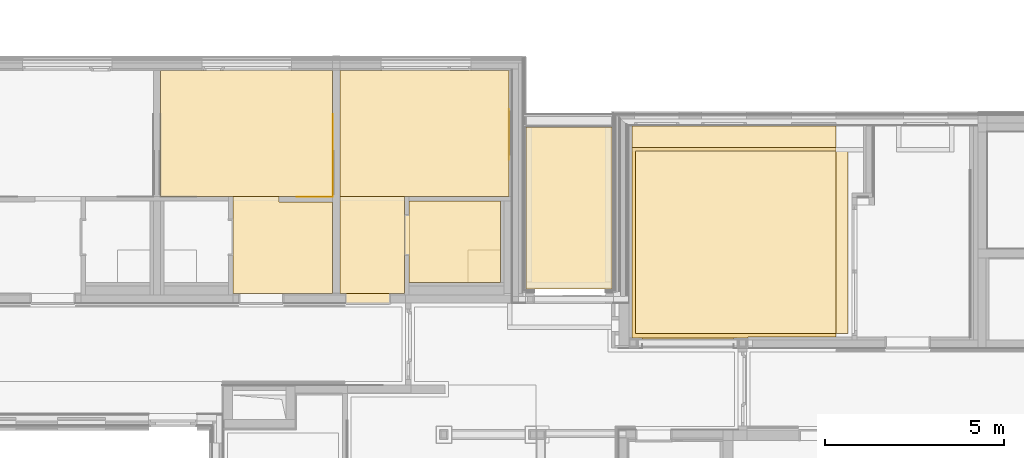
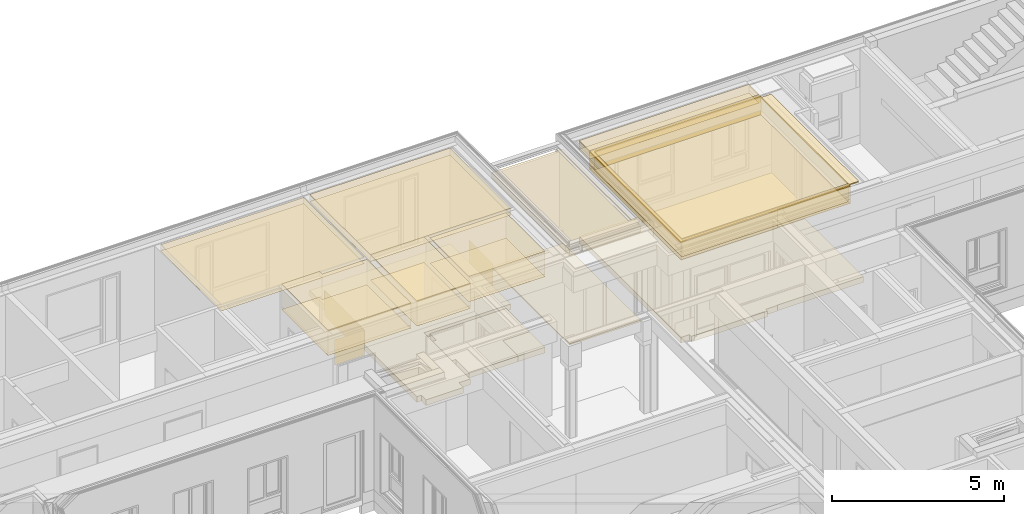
# One storey, part 175 of 207: 41 coverings.
"""IFC4 building model written with IfcOpenShell, lengths in metres."""

from ifc_helpers import new_model, entity, si_unit, converted_unit, derived_unit, frame, frame_2d, origin, origin_with_axes, place, context, subcontext, project, spatial, polyline, rectangle, outline, extrude, material, layer, layer_set, layer_usage, element, save


model = new_model("IFC4")

# Units and contexts
model_context = context("Model", 3, precision=1e-05, world=origin())
body_context = subcontext(model_context, "Body", "Model", "MODEL_VIEW")
ifc_project = project(units=[si_unit("LENGTHUNIT", "METRE"), si_unit("AREAUNIT", "SQUARE_METRE"), si_unit("VOLUMEUNIT", "CUBIC_METRE"), si_unit("MASSUNIT", "GRAM", prefix="KILO"), converted_unit("PLANEANGLEUNIT", "DEGREE", entity("IfcPlaneAngleMeasure", 0.0174532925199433), si_unit("PLANEANGLEUNIT", "RADIAN"), dimensions=[0, 0, 0, 0, 0, 0, 0]), derived_unit("THERMALTRANSMITTANCEUNIT", [(si_unit("POWERUNIT", "WATT"), 1), (si_unit("THERMODYNAMICTEMPERATUREUNIT", "KELVIN"), -1), (si_unit("LENGTHUNIT", "METRE"), -2)]), derived_unit("VOLUMETRICFLOWRATEUNIT", [(si_unit("LENGTHUNIT", "METRE"), 3), (converted_unit("TIMEUNIT", "hour", entity("IfcTimeMeasure", 3600.0), si_unit("TIMEUNIT", "SECOND"), dimensions=[0, 0, 1, 0, 0, 0, 0]), -1), (si_unit("LENGTHUNIT", "METRE"), -1)])], contexts=[model_context])

# Site, building, storey, space
site_placement = place(None, origin())
site = spatial("IfcSite", under=ifc_project, at=site_placement, Name="Psychiatrie Neubau Wunstorf", CompositionType="ELEMENT")
building_placement = place(site_placement, origin())
building = spatial("IfcBuilding", under=site, at=building_placement, Name="Neubau H2 Stationsgebäude", CompositionType="ELEMENT")
storey_placement = place(building_placement, frame((0.0, 0.0, -0.2)))
storey = spatial("IfcBuildingStorey", under=building, at=storey_placement, Name="H2 Ebene 0", CompositionType="ELEMENT", Elevation=-0.2)
space_1_placement = place(storey_placement, frame((32.023, 24.6995, 0.0)))
space_1 = spatial("IfcSpace", under=storey, at=space_1_placement, Name="WUN-H2-E00-047a", CompositionType="ELEMENT")

# Coverings
ifc_material_1 = material(Name="Fl1")
ifc_layer_1 = layer(ifc_material_1, 0.2)
ifc_layer_set_1 = layer_set([ifc_layer_1])
ifc_layer_usage_1 = layer_usage(ifc_layer_set_1, "AXIS3", "POSITIVE", 0.0)
covering_1_placement = place(space_1_placement, frame((-0.125000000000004, 0.0, 0.0)))
element("IfcCovering", 1, at=covering_1_placement, inside=space_1, material=ifc_layer_usage_1, Name="Fliesen", PredefinedType="FLOORING", context=body_context, shape_type="SweptSolid", body=[
    extrude(rectangle(XDim=0.125, YDim=1.135, at=frame_2d((0.0625, 0.5675), x_axis=(1.0, 0.0))), frame((0.0, 0.754999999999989, 0.0), z_axis=(0.0, 0.0, 1.0), x_axis=(1.0, 0.0, 0.0)), (0.0, 0.0, 1.0), 0.2),
    extrude(outline(polyline([(1.65599999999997, 0.899999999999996), (2.55600000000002, 0.899999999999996), (2.55600000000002, 2.265), (0.0, 2.265), (0.0, 0.0), (1.65599999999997, 0.0), (1.65599999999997, 0.899999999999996)])), frame((0.125000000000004, 0.0, 0.0), z_axis=(0.0, 0.0, 1.0), x_axis=(1.0, 0.0, 0.0)), (0.0, 0.0, 1.0), 0.2),
])
ifc_material_2 = material(Name="Fl2")
ifc_layer_2 = layer(ifc_material_2, 0.2)
ifc_layer_set_2 = layer_set([ifc_layer_2])
ifc_layer_usage_2 = layer_usage(ifc_layer_set_2, "AXIS3", "POSITIVE", 0.0)
covering_2_placement = place(space_1_placement, frame((1.65599999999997, 0.0, 0.0)))
element("IfcCovering", 2, at=covering_2_placement, inside=space_1, material=ifc_layer_usage_2, Name="Fliesen Mosaik", PredefinedType="FLOORING", context=body_context, shape_type="SweptSolid", body=[
    extrude(rectangle(XDim=0.9, YDim=0.900000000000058, at=frame_2d((0.45, 0.450000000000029), x_axis=(1.0, 0.0))), origin_with_axes(), (0.0, 0.0, 1.0), 0.2),
])
ifc_material_3 = material()
ifc_layer_3 = layer(ifc_material_3, 0.036)
ifc_layer_set_3 = layer_set([ifc_layer_3])
ifc_layer_usage_3 = layer_usage(ifc_layer_set_3, "AXIS3", "POSITIVE", 0.0)
covering_3_placement = place(space_1_placement, frame((0.0, 0.0, 3.6)))
element("IfcCovering", 3, at=covering_3_placement, inside=space_1, material=ifc_layer_usage_3, Name="Gipsfaserplatten 2-lagig (BSK)", PredefinedType="CEILING", context=body_context, shape_type="SweptSolid", body=[
    extrude(rectangle(XDim=2.265, YDim=2.55600000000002, at=frame_2d((-1.27800000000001, 1.1325), x_axis=(0.0, 1.0))), frame((2.55600000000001, 2.265, 0.0), z_axis=(0.0, 0.0, -1.0), x_axis=(1.0, 0.0, 0.0)), (0.0, 0.0, 1.0), 0.036),
])
ifc_material_4 = material(Name="Installationshöhe")
ifc_layer_4 = layer(ifc_material_4, 0.764)
ifc_layer_set_4 = layer_set([ifc_layer_4])
ifc_layer_usage_4 = layer_usage(ifc_layer_set_4, "AXIS3", "POSITIVE", 0.0)
covering_4_placement = place(space_1_placement, frame((0.0, 0.0, 3.564)))
element("IfcCovering", 4, at=covering_4_placement, inside=space_1, material=ifc_layer_usage_4, Name="Gipsfaserplatten 2-lagig (BSK)", PredefinedType="CEILING", context=body_context, shape_type="SweptSolid", body=[
    extrude(rectangle(XDim=2.265, YDim=2.55600000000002, at=frame_2d((-1.27800000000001, 1.1325), x_axis=(0.0, 1.0))), frame((2.55600000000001, 2.265, 0.0), z_axis=(0.0, 0.0, -1.0), x_axis=(1.0, 0.0, 0.0)), (0.0, 0.0, 1.0), 0.764),
])
ifc_material_5 = material(Name="B")
ifc_layer_5 = layer(ifc_material_5, 0.1)
ifc_layer_set_5 = layer_set([ifc_layer_5])
ifc_layer_usage_5 = layer_usage(ifc_layer_set_5, "AXIS3", "POSITIVE", 0.0)
covering_5_placement = place(space_1_placement, frame((0.0, 0.0, 2.8)))
element("IfcCovering", 5, at=covering_5_placement, inside=space_1, material=ifc_layer_usage_5, Name="Gipskarton, imprägniert", PredefinedType="CEILING", context=body_context, shape_type="SweptSolid", body=[
    extrude(rectangle(XDim=2.265, YDim=2.55600000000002, at=frame_2d((-1.27800000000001, 1.1325), x_axis=(0.0, 1.0))), frame((2.55600000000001, 2.265, 0.0), z_axis=(0.0, 0.0, -1.0), x_axis=(1.0, 0.0, 0.0)), (0.0, 0.0, 1.0), 0.1),
])
ifc_material_6 = material(Name="D1")
ifc_layer_6 = layer(ifc_material_6, 0.001)
ifc_layer_set_6 = layer_set([ifc_layer_6])
ifc_layer_usage_6 = layer_usage(ifc_layer_set_6, "AXIS3", "POSITIVE", 0.0)
covering_6_placement = place(space_1_placement, frame((0.0, 0.0, 2.7)))
element("IfcCovering", 6, at=covering_6_placement, inside=space_1, material=ifc_layer_usage_6, Name="Gipsfaserplatten 2-lagig (BSK)", PredefinedType="CEILING", context=body_context, shape_type="SweptSolid", body=[
    extrude(rectangle(XDim=2.265, YDim=2.55600000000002, at=frame_2d((-1.27800000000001, 1.1325), x_axis=(0.0, 1.0))), frame((2.55600000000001, 2.265, 0.0), z_axis=(0.0, 0.0, -1.0), x_axis=(1.0, 0.0, 0.0)), (0.0, 0.0, 1.0), 0.001),
])

# Space
space_2_placement = place(storey_placement, frame((35.2910006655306, 24.5160036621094, 0.13)))
space_2 = spatial("IfcSpace", under=storey, at=space_2_placement, Name="WUN-H2-E00-L01", CompositionType="ELEMENT")

# Coverings
ifc_material_7 = material(Name="Installationshöhe")
ifc_layer_7 = layer(ifc_material_7, 0.185)
ifc_layer_set_7 = layer_set([ifc_layer_7])
ifc_layer_usage_7 = layer_usage(ifc_layer_set_7, "AXIS3", "POSITIVE", 0.0)
covering_7_placement = place(space_2_placement, frame((0.0, 0.0, 3.39)))
element("IfcCovering", 7, at=covering_7_placement, inside=space_2, material=ifc_layer_usage_7, PredefinedType="CEILING", context=body_context, shape_type="SweptSolid", body=[
    extrude(rectangle(XDim=2.39449933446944, YDim=4.51149623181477, at=frame_2d((1.19724966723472, 2.25574811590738), x_axis=(1.0, 0.0))), frame((0.0, 4.51149623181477, 0.0), z_axis=(0.0, 0.0, -1.0), x_axis=(1.0, 0.0, 0.0)), (0.0, 0.0, 1.0), 0.185),
])
ifc_material_8 = material(Name="-")
ifc_layer_8 = layer(ifc_material_8, 0.045)
ifc_layer_set_8 = layer_set([ifc_layer_8])
ifc_layer_usage_8 = layer_usage(ifc_layer_set_8, "AXIS3", "POSITIVE", 0.0)
covering_8_placement = place(space_2_placement, frame((0.0, 0.0, 3.205)))
element("IfcCovering", 8, at=covering_8_placement, inside=space_2, material=ifc_layer_usage_8, Name="Abhangdecke", PredefinedType="CEILING", context=body_context, shape_type="SweptSolid", body=[
    extrude(rectangle(XDim=2.39449933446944, YDim=4.51149623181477, at=frame_2d((1.19724966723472, 2.25574811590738), x_axis=(1.0, 0.0))), frame((0.0, 4.51149623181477, 0.0), z_axis=(0.0, 0.0, -1.0), x_axis=(1.0, 0.0, 0.0)), (0.0, 0.0, 1.0), 0.045),
])
ifc_material_9 = material(Name="BP1")
ifc_layer_9 = layer(ifc_material_9, 0.05)
ifc_layer_set_9 = layer_set([ifc_layer_9])
ifc_layer_usage_9 = layer_usage(ifc_layer_set_9, "AXIS3", "POSITIVE", 0.0)
covering_9_placement = place(space_2_placement, origin())
element("IfcCovering", 9, at=covering_9_placement, inside=space_2, material=ifc_layer_usage_9, Name="Betonplatten 40x40x5", PredefinedType="FLOORING", context=body_context, shape_type="SweptSolid", body=[
    extrude(rectangle(XDim=2.39449933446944, YDim=4.51149623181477, at=frame_2d((-1.19724966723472, -2.25574811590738), x_axis=(-1.0, 0.0))), frame((2.39449933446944, 4.51149623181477, 0.0), z_axis=(0.0, 0.0, 1.0), x_axis=(1.0, 0.0, 0.0)), (0.0, 0.0, 1.0), 0.05),
])

# Space
space_3_placement = place(storey_placement, frame((25.1, 24.3895, 0.0)))
space_3 = spatial("IfcSpace", under=storey, at=space_3_placement, Name="WUN-H2-E00-046", CompositionType="ELEMENT")

# Coverings
ifc_material_10 = material(Name="84")
ifc_layer_10 = layer(ifc_material_10, 0.001)
ifc_layer_set_10 = layer_set([ifc_layer_10])
ifc_layer_usage_10 = layer_usage(ifc_layer_set_10, "AXIS3", "POSITIVE", 0.0)
covering_10_placement = place(space_3_placement, frame((3.8, 2.69999999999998, 0.1)))
element("IfcCovering", 10, at=covering_10_placement, inside=space_3, material=ifc_layer_usage_10, Name="Acrobyn", PredefinedType="CLADDING", context=body_context, shape_type="SweptSolid", body=[
    extrude(rectangle(XDim=0.9, YDim=2.3, at=frame_2d((-1.15, -0.45), x_axis=(0.0, -1.0))), frame((1.0, 2.3, 0.0), z_axis=(-1.0, 0.0, 0.0), x_axis=(0.0, 1.0, 0.0)), (0.0, 0.0, 1.0), 0.001),
    extrude(rectangle(XDim=0.9, YDim=1.0, at=frame_2d((-0.5, -0.45), x_axis=(0.0, -1.0))), frame((1.0, 0.0, 0.0), z_axis=(0.0, 1.0, 0.0), x_axis=(1.0, 0.0, 0.0)), (0.0, 0.0, 1.0), 0.001),
])
ifc_material_11 = material()
ifc_layer_11 = layer(ifc_material_11, 0.036)
ifc_layer_set_11 = layer_set([ifc_layer_11])
ifc_layer_usage_11 = layer_usage(ifc_layer_set_11, "AXIS3", "POSITIVE", 0.0)
covering_11_placement = place(space_3_placement, frame((2.025, 0.0, 3.6)))
element("IfcCovering", 11, at=covering_11_placement, inside=space_3, material=ifc_layer_usage_11, Name="Gipsfaserplatten 2-lagig (BSK)", PredefinedType="CEILING", context=body_context, shape_type="SweptSolid", body=[
    extrude(outline(polyline([(2.77499999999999, 0.15), (2.775, 2.69999999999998), (0.0, 2.69999999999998), (0.0, 0.0), (1.27499999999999, 0.0), (1.27499999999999, 0.15), (2.77499999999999, 0.15)])), frame((0.0, 2.69999999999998, 0.0), z_axis=(0.0, 0.0, -1.0), x_axis=(1.0, 0.0, 0.0)), (0.0, 0.0, 1.0), 0.036),
])
ifc_material_12 = material(Name="Installationshöhe")
ifc_layer_12 = layer(ifc_material_12, 0.764)
ifc_layer_set_12 = layer_set([ifc_layer_12])
ifc_layer_usage_12 = layer_usage(ifc_layer_set_12, "AXIS3", "POSITIVE", 0.0)
covering_12_placement = place(space_3_placement, frame((2.025, 0.0, 3.564)))
element("IfcCovering", 12, at=covering_12_placement, inside=space_3, material=ifc_layer_usage_12, Name="Gipsfaserplatten 2-lagig (BSK)", PredefinedType="CEILING", context=body_context, shape_type="SweptSolid", body=[
    extrude(outline(polyline([(2.77499999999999, 0.15), (2.775, 2.69999999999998), (0.0, 2.69999999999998), (0.0, 0.0), (1.27499999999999, 0.0), (1.27499999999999, 0.15), (2.77499999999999, 0.15)])), frame((0.0, 2.69999999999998, 0.0), z_axis=(0.0, 0.0, -1.0), x_axis=(1.0, 0.0, 0.0)), (0.0, 0.0, 1.0), 0.764),
])
ifc_material_13 = material(Name="A1")
ifc_layer_13 = layer(ifc_material_13, 0.1)
ifc_layer_set_13 = layer_set([ifc_layer_13])
ifc_layer_usage_13 = layer_usage(ifc_layer_set_13, "AXIS3", "POSITIVE", 0.0)
covering_13_placement = place(space_3_placement, frame((2.025, 0.0, 2.8)))
element("IfcCovering", 13, at=covering_13_placement, inside=space_3, material=ifc_layer_usage_13, Name="Gipsfaserplatten 2-lagig (BSK)", PredefinedType="CEILING", context=body_context, shape_type="SweptSolid", body=[
    extrude(outline(polyline([(2.77499999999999, 0.15), (2.775, 2.69999999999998), (0.0, 2.69999999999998), (0.0, 0.0), (1.27499999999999, 0.0), (1.27499999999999, 0.15), (2.77499999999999, 0.15)])), frame((0.0, 2.69999999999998, 0.0), z_axis=(0.0, 0.0, -1.0), x_axis=(1.0, 0.0, 0.0)), (0.0, 0.0, 1.0), 0.1),
])
ifc_material_14 = material(Name="D1")
ifc_layer_14 = layer(ifc_material_14, 0.001)
ifc_layer_set_14 = layer_set([ifc_layer_14])
ifc_layer_usage_14 = layer_usage(ifc_layer_set_14, "AXIS3", "POSITIVE", 0.0)
covering_14_placement = place(space_3_placement, frame((2.025, 0.0, 2.7)))
element("IfcCovering", 14, at=covering_14_placement, inside=space_3, material=ifc_layer_usage_14, Name="Gipsfaserplatten 2-lagig (BSK)", PredefinedType="CEILING", context=body_context, shape_type="SweptSolid", body=[
    extrude(outline(polyline([(2.77499999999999, 0.15), (2.775, 2.69999999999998), (0.0, 2.69999999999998), (0.0, 0.0), (1.27499999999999, 0.0), (1.27499999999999, 0.15), (2.77499999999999, 0.15)])), frame((0.0, 2.69999999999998, 0.0), z_axis=(0.0, 0.0, -1.0), x_axis=(1.0, 0.0, 0.0)), (0.0, 0.0, 1.0), 0.001),
])
ifc_material_15 = material(Name="Installationshöhe")
ifc_layer_15 = layer(ifc_material_15, 0.114)
ifc_layer_set_15 = layer_set([ifc_layer_15])
ifc_layer_usage_15 = layer_usage(ifc_layer_set_15, "AXIS3", "POSITIVE", 0.0)
covering_15_placement = place(space_3_placement, frame((0.0, 2.69999999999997, 3.564)))
element("IfcCovering", 15, at=covering_15_placement, inside=space_3, material=ifc_layer_usage_15, Name="Gipsfaserplatten 2-lagig (BSK)", PredefinedType="CEILING", context=body_context, shape_type="SweptSolid", body=[
    extrude(rectangle(XDim=3.52450000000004, YDim=4.8, at=frame_2d((2.4, -1.76225000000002), x_axis=(0.0, -1.0))), frame((0.0, 0.0, 0.0), z_axis=(0.0, 0.0, -1.0), x_axis=(1.0, 0.0, 0.0)), (0.0, 0.0, 1.0), 0.114),
])
ifc_material_16 = material(Name="A1")
ifc_layer_16 = layer(ifc_material_16, 0.1)
ifc_layer_set_16 = layer_set([ifc_layer_16])
ifc_layer_usage_16 = layer_usage(ifc_layer_set_16, "AXIS3", "POSITIVE", 0.0)
covering_16_placement = place(space_3_placement, frame((0.0, 2.69999999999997, 3.45)))
element("IfcCovering", 16, at=covering_16_placement, inside=space_3, material=ifc_layer_usage_16, Name="Gipsfaserplatten 2-lagig (BSK)", PredefinedType="CEILING", context=body_context, shape_type="SweptSolid", body=[
    extrude(rectangle(XDim=3.52450000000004, YDim=4.8, at=frame_2d((2.4, -1.76225000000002), x_axis=(0.0, -1.0))), frame((0.0, 0.0, 0.0), z_axis=(0.0, 0.0, -1.0), x_axis=(1.0, 0.0, 0.0)), (0.0, 0.0, 1.0), 0.1),
])
ifc_material_17 = material(Name="D1")
ifc_layer_17 = layer(ifc_material_17, 0.001)
ifc_layer_set_17 = layer_set([ifc_layer_17])
ifc_layer_usage_17 = layer_usage(ifc_layer_set_17, "AXIS3", "POSITIVE", 0.0)
covering_17_placement = place(space_3_placement, frame((0.0, 2.69999999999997, 3.35)))
element("IfcCovering", 17, at=covering_17_placement, inside=space_3, material=ifc_layer_usage_17, Name="Gipsfaserplatten 2-lagig (BSK)", PredefinedType="CEILING", context=body_context, shape_type="SweptSolid", body=[
    extrude(rectangle(XDim=3.52450000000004, YDim=4.8, at=frame_2d((2.4, -1.76225000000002), x_axis=(0.0, -1.0))), frame((0.0, 0.0, 0.0), z_axis=(0.0, 0.0, -1.0), x_axis=(1.0, 0.0, 0.0)), (0.0, 0.0, 1.0), 0.001),
])

# Space
space_4_placement = place(storey_placement, frame((30.1, 24.3895, 0.0)))
space_4 = spatial("IfcSpace", under=storey, at=space_4_placement, Name="WUN-H2-E00-047", CompositionType="ELEMENT")

# Coverings
ifc_material_18 = material(Name="84")
ifc_layer_18 = layer(ifc_material_18, 0.001)
ifc_layer_set_18 = layer_set([ifc_layer_18])
ifc_layer_usage_18 = layer_usage(ifc_layer_set_18, "AXIS3", "POSITIVE", 0.0)
covering_18_placement = place(space_4_placement, frame((4.714, 3.73549999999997, 0.1)))
element("IfcCovering", 18, at=covering_18_placement, inside=space_4, material=ifc_layer_usage_18, Name="Acrobyn", PredefinedType="CLADDING", context=body_context, shape_type="SweptSolid", body=[
    extrude(rectangle(XDim=1.4, YDim=0.9, at=frame_2d((0.7, -0.45), x_axis=(1.0, 0.0))), frame((0.0, 0.0, 0.0), z_axis=(-1.0, 0.0, 0.0), x_axis=(0.0, 1.0, 0.0)), (0.0, 0.0, 1.0), 0.001),
])
ifc_material_19 = material(Name="Ku1")
ifc_layer_19 = layer(ifc_material_19, 0.2)
ifc_layer_set_19 = layer_set([ifc_layer_19])
ifc_layer_usage_19 = layer_usage(ifc_layer_set_19, "AXIS3", "POSITIVE", 0.0)
covering_19_placement = place(space_4_placement, frame((0.0, -0.271999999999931, 0.0)))
element("IfcCovering", 19, at=covering_19_placement, inside=space_4, material=ifc_layer_usage_19, Name="PVC Bahnenware Holzoptik", PredefinedType="FLOORING", context=body_context, shape_type="SweptSolid", body=[
    extrude(rectangle(XDim=0.272, YDim=1.26, at=frame_2d((0.629999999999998, -0.136), x_axis=(-1.3374922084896e-14, -1.0))), frame((0.150000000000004, 0.272, 0.0), z_axis=(0.0, 0.0, 1.0), x_axis=(1.0, 0.0, 0.0)), (0.0, 0.0, 1.0), 0.2),
    extrude(outline(polyline([(1.79800000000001, 2.69999999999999), (4.714, 2.69999999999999), (4.714, 6.22450000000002), (0.0, 6.22450000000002), (0.0, 0.0), (1.798, 0.0), (1.79800000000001, 2.69999999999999)])), frame((0.0, 0.271999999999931, 0.0), z_axis=(0.0, 0.0, 1.0), x_axis=(1.0, 0.0, 0.0)), (0.0, 0.0, 1.0), 0.2),
])
ifc_material_20 = material()
ifc_layer_20 = layer(ifc_material_20, 0.036)
ifc_layer_set_20 = layer_set([ifc_layer_20])
ifc_layer_usage_20 = layer_usage(ifc_layer_set_20, "AXIS3", "POSITIVE", 0.0)
covering_20_placement = place(space_4_placement, frame((0.0, 0.0, 3.6)))
element("IfcCovering", 20, at=covering_20_placement, inside=space_4, material=ifc_layer_usage_20, Name="Gipsfaserplatten 2-lagig (BSK)", PredefinedType="CEILING", context=body_context, shape_type="SweptSolid", body=[
    extrude(rectangle(XDim=1.79800000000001, YDim=2.69999999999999, at=frame_2d((0.899, 1.34999999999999), x_axis=(1.0, 0.0))), frame((0.0, 2.69999999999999, 0.0), z_axis=(0.0, 0.0, -1.0), x_axis=(1.0, 0.0, 0.0)), (0.0, 0.0, 1.0), 0.036),
])
ifc_material_21 = material(Name="Installationshöhe")
ifc_layer_21 = layer(ifc_material_21, 0.764)
ifc_layer_set_21 = layer_set([ifc_layer_21])
ifc_layer_usage_21 = layer_usage(ifc_layer_set_21, "AXIS3", "POSITIVE", 0.0)
covering_21_placement = place(space_4_placement, frame((0.0, 0.0, 3.564)))
element("IfcCovering", 21, at=covering_21_placement, inside=space_4, material=ifc_layer_usage_21, Name="Gipsfaserplatten 2-lagig (BSK)", PredefinedType="CEILING", context=body_context, shape_type="SweptSolid", body=[
    extrude(rectangle(XDim=1.79800000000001, YDim=2.69999999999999, at=frame_2d((0.899, 1.34999999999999), x_axis=(1.0, 0.0))), frame((0.0, 2.69999999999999, 0.0), z_axis=(0.0, 0.0, -1.0), x_axis=(1.0, 0.0, 0.0)), (0.0, 0.0, 1.0), 0.764),
])
ifc_material_22 = material(Name="A1")
ifc_layer_22 = layer(ifc_material_22, 0.1)
ifc_layer_set_22 = layer_set([ifc_layer_22])
ifc_layer_usage_22 = layer_usage(ifc_layer_set_22, "AXIS3", "POSITIVE", 0.0)
covering_22_placement = place(space_4_placement, frame((0.0, 0.0, 2.8)))
element("IfcCovering", 22, at=covering_22_placement, inside=space_4, material=ifc_layer_usage_22, Name="Gipsfaserplatten 2-lagig (BSK)", PredefinedType="CEILING", context=body_context, shape_type="SweptSolid", body=[
    extrude(rectangle(XDim=1.79800000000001, YDim=2.69999999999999, at=frame_2d((0.899, 1.34999999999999), x_axis=(1.0, 0.0))), frame((0.0, 2.69999999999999, 0.0), z_axis=(0.0, 0.0, -1.0), x_axis=(1.0, 0.0, 0.0)), (0.0, 0.0, 1.0), 0.1),
])
ifc_material_23 = material(Name="D1")
ifc_layer_23 = layer(ifc_material_23, 0.001)
ifc_layer_set_23 = layer_set([ifc_layer_23])
ifc_layer_usage_23 = layer_usage(ifc_layer_set_23, "AXIS3", "POSITIVE", 0.0)
covering_23_placement = place(space_4_placement, frame((0.0, 0.0, 2.7)))
element("IfcCovering", 23, at=covering_23_placement, inside=space_4, material=ifc_layer_usage_23, Name="Gipsfaserplatten 2-lagig (BSK)", PredefinedType="CEILING", context=body_context, shape_type="SweptSolid", body=[
    extrude(rectangle(XDim=1.79800000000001, YDim=2.69999999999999, at=frame_2d((0.899, 1.34999999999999), x_axis=(1.0, 0.0))), frame((0.0, 2.69999999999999, 0.0), z_axis=(0.0, 0.0, -1.0), x_axis=(1.0, 0.0, 0.0)), (0.0, 0.0, 1.0), 0.001),
])
ifc_material_24 = material()
ifc_layer_24 = layer(ifc_material_24, 0.036)
ifc_layer_set_24 = layer_set([ifc_layer_24])
ifc_layer_usage_24 = layer_usage(ifc_layer_set_24, "AXIS3", "POSITIVE", 0.0)
covering_24_placement = place(space_4_placement, frame((0.0, 2.69999999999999, 3.6)))
element("IfcCovering", 24, at=covering_24_placement, inside=space_4, material=ifc_layer_usage_24, Name="Gipsfaserplatten 2-lagig (BSK)", PredefinedType="CEILING", context=body_context, shape_type="SweptSolid", body=[
    extrude(rectangle(XDim=4.714, YDim=3.52450000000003, at=frame_2d((-2.357, -1.76225000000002), x_axis=(-1.0, 0.0))), frame((4.714, 0.0, 0.0), z_axis=(0.0, 0.0, -1.0), x_axis=(1.0, 0.0, 0.0)), (0.0, 0.0, 1.0), 0.036),
])
ifc_material_25 = material(Name="Installationshöhe")
ifc_layer_25 = layer(ifc_material_25, 0.114)
ifc_layer_set_25 = layer_set([ifc_layer_25])
ifc_layer_usage_25 = layer_usage(ifc_layer_set_25, "AXIS3", "POSITIVE", 0.0)
covering_25_placement = place(space_4_placement, frame((0.0, 2.69999999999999, 3.564)))
element("IfcCovering", 25, at=covering_25_placement, inside=space_4, material=ifc_layer_usage_25, Name="Gipsfaserplatten 2-lagig (BSK)", PredefinedType="CEILING", context=body_context, shape_type="SweptSolid", body=[
    extrude(rectangle(XDim=4.714, YDim=3.52450000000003, at=frame_2d((-2.357, -1.76225000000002), x_axis=(-1.0, 0.0))), frame((4.714, 0.0, 0.0), z_axis=(0.0, 0.0, -1.0), x_axis=(1.0, 0.0, 0.0)), (0.0, 0.0, 1.0), 0.114),
])
ifc_material_26 = material(Name="A1")
ifc_layer_26 = layer(ifc_material_26, 0.1)
ifc_layer_set_26 = layer_set([ifc_layer_26])
ifc_layer_usage_26 = layer_usage(ifc_layer_set_26, "AXIS3", "POSITIVE", 0.0)
covering_26_placement = place(space_4_placement, frame((0.0, 2.69999999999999, 3.45)))
element("IfcCovering", 26, at=covering_26_placement, inside=space_4, material=ifc_layer_usage_26, Name="Gipsfaserplatten 2-lagig (BSK)", PredefinedType="CEILING", context=body_context, shape_type="SweptSolid", body=[
    extrude(rectangle(XDim=4.714, YDim=3.52450000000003, at=frame_2d((-2.357, -1.76225000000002), x_axis=(-1.0, 0.0))), frame((4.714, 0.0, 0.0), z_axis=(0.0, 0.0, -1.0), x_axis=(1.0, 0.0, 0.0)), (0.0, 0.0, 1.0), 0.1),
])
ifc_material_27 = material(Name="D1")
ifc_layer_27 = layer(ifc_material_27, 0.001)
ifc_layer_set_27 = layer_set([ifc_layer_27])
ifc_layer_usage_27 = layer_usage(ifc_layer_set_27, "AXIS3", "POSITIVE", 0.0)
covering_27_placement = place(space_4_placement, frame((0.0, 2.69999999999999, 3.35)))
element("IfcCovering", 27, at=covering_27_placement, inside=space_4, material=ifc_layer_usage_27, Name="Gipsfaserplatten 2-lagig (BSK)", PredefinedType="CEILING", context=body_context, shape_type="SweptSolid", body=[
    extrude(rectangle(XDim=4.714, YDim=3.52450000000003, at=frame_2d((-2.357, -1.76225000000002), x_axis=(-1.0, 0.0))), frame((4.714, 0.0, 0.0), z_axis=(0.0, 0.0, -1.0), x_axis=(1.0, 0.0, 0.0)), (0.0, 0.0, 1.0), 0.001),
])

# Space
space_5_placement = place(storey_placement, frame((38.244, 23.1539990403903, 0.0)))
space_5 = spatial("IfcSpace", under=storey, at=space_5_placement, Name="WUN-H2-E00-008", CompositionType="ELEMENT")

# Coverings
ifc_material_28 = material(Name="Ku1")
ifc_layer_28 = layer(ifc_material_28, 0.2)
ifc_layer_set_28 = layer_set([ifc_layer_28])
ifc_layer_usage_28 = layer_usage(ifc_layer_set_28, "AXIS3", "POSITIVE", 0.0)
covering_28_placement = place(space_5_placement, frame((0.0, -0.105002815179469, 0.0)))
element("IfcCovering", 28, at=covering_28_placement, inside=space_5, material=ifc_layer_usage_28, Name="PVC Bahnenware Holzoptik", PredefinedType="FLOORING", context=body_context, shape_type="SweptSolid", body=[
    extrude(rectangle(XDim=0.104997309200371, YDim=2.55000000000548, at=frame_2d((1.27500010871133, -0.0524986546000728), x_axis=(2.07069282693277e-06, -0.999999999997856))), frame((0.286500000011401, 0.104997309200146, 0.0), z_axis=(0.0, 0.0, 1.0), x_axis=(1.0, 0.0, 0.0)), (0.0, 0.0, 1.0), 0.2),
    extrude(outline(polyline([(6.131, 0.0170009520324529), (6.13100000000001, 4.03500065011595), (6.456, 4.03500065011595), (6.456, 5.91000065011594), (0.0, 5.91000065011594), (0.0, 0.0), (3.234, 0.0), (3.234, 0.0170009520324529), (6.131, 0.0170009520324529)])), frame((0.0, 0.105002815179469, 0.0), z_axis=(-3.5966162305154e-17, -9.85466114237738e-18, 1.0), x_axis=(1.0, 0.0, 0.0)), (0.0, 9.85466114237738e-18, 1.0), 0.2),
])
ifc_material_29 = material()
ifc_layer_29 = layer(ifc_material_29, 0.036)
ifc_layer_set_29 = layer_set([ifc_layer_29])
ifc_layer_usage_29 = layer_usage(ifc_layer_set_29, "AXIS3", "POSITIVE", 0.0)
covering_29_placement = place(space_5_placement, frame((5.69350000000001, 0.117000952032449, 3.56)))
element("IfcCovering", 29, at=covering_29_placement, inside=space_5, material=ifc_layer_usage_29, Name="Gipsfaserplatten 2-lagig (BSK)", PredefinedType="CEILING", context=body_context, shape_type="SweptSolid", body=[
    extrude(rectangle(XDim=5.09299969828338, YDim=0.337499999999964, at=frame_2d((-0.168749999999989, 2.54649984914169), x_axis=(-2.8572385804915e-15, 1.0))), frame((0.337499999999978, 5.09299969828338, 0.0), z_axis=(0.0, 0.0, -1.0), x_axis=(1.0, 0.0, 0.0)), (0.0, 0.0, 1.0), 0.036),
])
ifc_material_30 = material()
ifc_layer_30 = layer(ifc_material_30, 0.036)
ifc_layer_set_30 = layer_set([ifc_layer_30])
ifc_layer_usage_30 = layer_usage(ifc_layer_set_30, "AXIS3", "POSITIVE", 0.0)
covering_30_placement = place(space_5_placement, frame((0.0, 0.0, 3.6)))
element("IfcCovering", 30, at=covering_30_placement, inside=space_5, material=ifc_layer_usage_30, Name="Gipsfaserplatten 2-lagig (BSK)", PredefinedType="CEILING", context=body_context, shape_type="SweptSolid", body=[
    extrude(outline(polyline([(3.23400000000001, 5.29299969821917), (3.23400000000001, 5.31000065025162), (0.0, 5.31000065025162), (0.0, 0.0), (5.69350000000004, 0.0), (5.69350000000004, 0.0999999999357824), (0.100000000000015, 0.0999999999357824), (0.100000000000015, 5.19299969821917), (5.69350000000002, 5.19299969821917), (5.69350000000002, 5.29299969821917), (3.23400000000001, 5.29299969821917)])), frame((0.0, 5.31000065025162, 0.0), z_axis=(0.0, 0.0, -1.0), x_axis=(1.0, 0.0, 0.0)), (0.0, 0.0, 1.0), 0.036),
])
ifc_material_31 = material(Name="Installationshöhe")
ifc_layer_31 = layer(ifc_material_31, 0.464)
ifc_layer_set_31 = layer_set([ifc_layer_31])
ifc_layer_usage_31 = layer_usage(ifc_layer_set_31, "AXIS3", "POSITIVE", 0.0)
covering_31_placement = place(space_5_placement, frame((0.0, 0.0, 3.564)))
element("IfcCovering", 31, at=covering_31_placement, inside=space_5, material=ifc_layer_usage_31, Name="Gipsfaserplatten 2-lagig (BSK)", PredefinedType="CEILING", context=body_context, shape_type="SweptSolid", body=[
    extrude(outline(polyline([(3.23400000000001, 5.29299969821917), (3.23400000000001, 5.31000065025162), (0.0, 5.31000065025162), (0.0, 0.0), (5.69350000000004, 0.0), (5.69350000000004, 0.0999999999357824), (0.100000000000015, 0.0999999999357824), (0.100000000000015, 5.19299969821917), (5.69350000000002, 5.19299969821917), (5.69350000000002, 5.29299969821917), (3.23400000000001, 5.29299969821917)])), frame((0.0, 5.31000065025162, 0.0), z_axis=(0.0, 0.0, -1.0), x_axis=(1.0, 0.0, 0.0)), (0.0, 0.0, 1.0), 0.464),
])
ifc_material_32 = material(Name="A1")
ifc_layer_32 = layer(ifc_material_32, 0.15)
ifc_layer_set_32 = layer_set([ifc_layer_32])
ifc_layer_usage_32 = layer_usage(ifc_layer_set_32, "AXIS3", "POSITIVE", 0.0)
covering_32_placement = place(space_5_placement, frame((0.0, 0.0, 3.1)))
element("IfcCovering", 32, at=covering_32_placement, inside=space_5, material=ifc_layer_usage_32, Name="Gipsfaserplatten 2-lagig (BSK)", PredefinedType="CEILING", context=body_context, shape_type="SweptSolid", body=[
    extrude(outline(polyline([(3.23400000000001, 5.29299969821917), (3.23400000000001, 5.31000065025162), (0.0, 5.31000065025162), (0.0, 0.0), (5.69350000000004, 0.0), (5.69350000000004, 0.0999999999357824), (0.100000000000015, 0.0999999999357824), (0.100000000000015, 5.19299969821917), (5.69350000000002, 5.19299969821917), (5.69350000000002, 5.29299969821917), (3.23400000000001, 5.29299969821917)])), frame((0.0, 5.31000065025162, 0.0), z_axis=(0.0, 0.0, -1.0), x_axis=(1.0, 0.0, 0.0)), (0.0, 0.0, 1.0), 0.15),
])
ifc_material_33 = material(Name="D1")
ifc_layer_33 = layer(ifc_material_33, 0.001)
ifc_layer_set_33 = layer_set([ifc_layer_33])
ifc_layer_usage_33 = layer_usage(ifc_layer_set_33, "AXIS3", "POSITIVE", 0.0)
covering_33_placement = place(space_5_placement, frame((0.0, 0.0, 2.95)))
element("IfcCovering", 33, at=covering_33_placement, inside=space_5, material=ifc_layer_usage_33, Name="Gipsfaserplatten 2-lagig (BSK)", PredefinedType="CEILING", context=body_context, shape_type="SweptSolid", body=[
    extrude(outline(polyline([(3.23400000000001, 5.29299969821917), (3.23400000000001, 5.31000065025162), (0.0, 5.31000065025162), (0.0, 0.0), (5.69350000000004, 0.0), (5.69350000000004, 0.0999999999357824), (0.100000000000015, 0.0999999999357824), (0.100000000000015, 5.19299969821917), (5.69350000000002, 5.19299969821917), (5.69350000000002, 5.29299969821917), (3.23400000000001, 5.29299969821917)])), frame((0.0, 5.31000065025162, 0.0), z_axis=(0.0, 0.0, -1.0), x_axis=(1.0, 0.0, 0.0)), (0.0, 0.0, 1.0), 0.001),
])
ifc_material_34 = material()
ifc_layer_34 = layer(ifc_material_34, 0.036)
ifc_layer_set_34 = layer_set([ifc_layer_34])
ifc_layer_usage_34 = layer_usage(ifc_layer_set_34, "AXIS3", "POSITIVE", 0.0)
covering_34_placement = place(space_5_placement, frame((0.1, 0.117000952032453, 3.6)))
element("IfcCovering", 34, at=covering_34_placement, inside=space_5, material=ifc_layer_usage_34, Name="Gipsfaserplatten 2-lagig (BSK)", PredefinedType="CEILING", context=body_context, shape_type="SweptSolid", body=[
    extrude(rectangle(XDim=5.09299969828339, YDim=5.59350000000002, at=frame_2d((2.79675000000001, -2.54649984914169), x_axis=(0.0, -1.0))), frame((0.0, 0.0, 0.0), z_axis=(0.0, 0.0, -1.0), x_axis=(1.0, 0.0, 0.0)), (0.0, 0.0, 1.0), 0.036),
])
ifc_material_35 = material(Name="Installationshöhe")
ifc_layer_35 = layer(ifc_material_35, 0.464)
ifc_layer_set_35 = layer_set([ifc_layer_35])
ifc_layer_usage_35 = layer_usage(ifc_layer_set_35, "AXIS3", "POSITIVE", 0.0)
covering_35_placement = place(space_5_placement, frame((0.1, 0.117000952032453, 3.564)))
element("IfcCovering", 35, at=covering_35_placement, inside=space_5, material=ifc_layer_usage_35, Name="Gipsfaserplatten 2-lagig (BSK)", PredefinedType="CEILING", context=body_context, shape_type="SweptSolid", body=[
    extrude(rectangle(XDim=5.09299969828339, YDim=5.59350000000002, at=frame_2d((2.79675000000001, -2.54649984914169), x_axis=(0.0, -1.0))), frame((0.0, 0.0, 0.0), z_axis=(0.0, 0.0, -1.0), x_axis=(1.0, 0.0, 0.0)), (0.0, 0.0, 1.0), 0.464),
])
ifc_material_36 = material(Name="Aa")
ifc_layer_36 = layer(ifc_material_36, 0.15)
ifc_layer_set_36 = layer_set([ifc_layer_36])
ifc_layer_usage_36 = layer_usage(ifc_layer_set_36, "AXIS3", "POSITIVE", 0.0)
covering_36_placement = place(space_5_placement, frame((0.1, 0.117000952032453, 3.1)))
element("IfcCovering", 36, at=covering_36_placement, inside=space_5, material=ifc_layer_usage_36, Name="Gipsfaserplatten 2-lagig (BSK)", PredefinedType="CEILING", context=body_context, shape_type="SweptSolid", body=[
    extrude(rectangle(XDim=5.09299969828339, YDim=5.59350000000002, at=frame_2d((2.79675000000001, -2.54649984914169), x_axis=(0.0, -1.0))), frame((0.0, 0.0, 0.0), z_axis=(0.0, 0.0, -1.0), x_axis=(1.0, 0.0, 0.0)), (0.0, 0.0, 1.0), 0.15),
])
ifc_material_37 = material(Name="D1")
ifc_layer_37 = layer(ifc_material_37, 0.001)
ifc_layer_set_37 = layer_set([ifc_layer_37])
ifc_layer_usage_37 = layer_usage(ifc_layer_set_37, "AXIS3", "POSITIVE", 0.0)
covering_37_placement = place(space_5_placement, frame((0.1, 0.117000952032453, 2.95)))
element("IfcCovering", 37, at=covering_37_placement, inside=space_5, material=ifc_layer_usage_37, Name="Gipsfaserplatten 2-lagig (BSK)", PredefinedType="CEILING", context=body_context, shape_type="SweptSolid", body=[
    extrude(rectangle(XDim=5.09299969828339, YDim=5.59350000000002, at=frame_2d((2.79675000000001, -2.54649984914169), x_axis=(0.0, -1.0))), frame((0.0, 0.0, 0.0), z_axis=(0.0, 0.0, -1.0), x_axis=(1.0, 0.0, 0.0)), (0.0, 0.0, 1.0), 0.001),
])
ifc_material_38 = material()
ifc_layer_38 = layer(ifc_material_38, 0.036)
ifc_layer_set_38 = layer_set([ifc_layer_38])
ifc_layer_usage_38 = layer_usage(ifc_layer_set_38, "AXIS3", "POSITIVE", 0.0)
covering_38_placement = place(space_5_placement, frame((0.0, 5.31000065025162, 3.6)))
element("IfcCovering", 38, at=covering_38_placement, inside=space_5, material=ifc_layer_usage_38, Name="Gipsfaserplatten 2-lagig (BSK)", PredefinedType="CEILING", context=body_context, shape_type="SweptSolid", body=[
    extrude(rectangle(XDim=0.599999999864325, YDim=5.69350000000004, at=frame_2d((2.84675000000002, -0.299999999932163), x_axis=(0.0, -1.0))), frame((0.0, 0.0, 0.0), z_axis=(0.0, 0.0, -1.0), x_axis=(1.0, 0.0, 0.0)), (0.0, 0.0, 1.0), 0.036),
])
ifc_material_39 = material(Name="Installationshöhe")
ifc_layer_39 = layer(ifc_material_39, 0.164)
ifc_layer_set_39 = layer_set([ifc_layer_39])
ifc_layer_usage_39 = layer_usage(ifc_layer_set_39, "AXIS3", "POSITIVE", 0.0)
covering_39_placement = place(space_5_placement, frame((0.0, 5.31000065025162, 3.564)))
element("IfcCovering", 39, at=covering_39_placement, inside=space_5, material=ifc_layer_usage_39, Name="Gipsfaserplatten 2-lagig (BSK)", PredefinedType="CEILING", context=body_context, shape_type="SweptSolid", body=[
    extrude(rectangle(XDim=0.599999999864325, YDim=5.69350000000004, at=frame_2d((2.84675000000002, -0.299999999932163), x_axis=(0.0, -1.0))), frame((0.0, 0.0, 0.0), z_axis=(0.0, 0.0, -1.0), x_axis=(1.0, 0.0, 0.0)), (0.0, 0.0, 1.0), 0.164),
])
ifc_material_40 = material(Name="A1")
ifc_layer_40 = layer(ifc_material_40, 0.1)
ifc_layer_set_40 = layer_set([ifc_layer_40])
ifc_layer_usage_40 = layer_usage(ifc_layer_set_40, "AXIS3", "POSITIVE", 0.0)
covering_40_placement = place(space_5_placement, frame((0.0, 5.31000065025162, 3.4)))
element("IfcCovering", 40, at=covering_40_placement, inside=space_5, material=ifc_layer_usage_40, Name="Gipsfaserplatten 2-lagig (BSK)", PredefinedType="CEILING", context=body_context, shape_type="SweptSolid", body=[
    extrude(rectangle(XDim=0.599999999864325, YDim=5.69350000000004, at=frame_2d((2.84675000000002, -0.299999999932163), x_axis=(0.0, -1.0))), frame((0.0, 0.0, 0.0), z_axis=(0.0, 0.0, -1.0), x_axis=(1.0, 0.0, 0.0)), (0.0, 0.0, 1.0), 0.1),
])
ifc_material_41 = material(Name="D1")
ifc_layer_41 = layer(ifc_material_41, 0.001)
ifc_layer_set_41 = layer_set([ifc_layer_41])
ifc_layer_usage_41 = layer_usage(ifc_layer_set_41, "AXIS3", "POSITIVE", 0.0)
covering_41_placement = place(space_5_placement, frame((0.0, 5.31000065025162, 3.3)))
element("IfcCovering", 41, at=covering_41_placement, inside=space_5, material=ifc_layer_usage_41, Name="Gipsfaserplatten 2-lagig (BSK)", PredefinedType="CEILING", context=body_context, shape_type="SweptSolid", body=[
    extrude(rectangle(XDim=0.599999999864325, YDim=5.69350000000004, at=frame_2d((2.84675000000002, -0.299999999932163), x_axis=(0.0, -1.0))), frame((0.0, 0.0, 0.0), z_axis=(0.0, 0.0, -1.0), x_axis=(1.0, 0.0, 0.0)), (0.0, 0.0, 1.0), 0.001),
])

save(model, "model.ifc")
